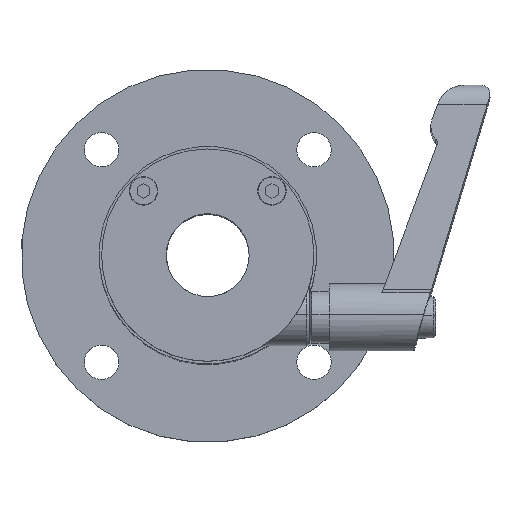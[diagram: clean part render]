
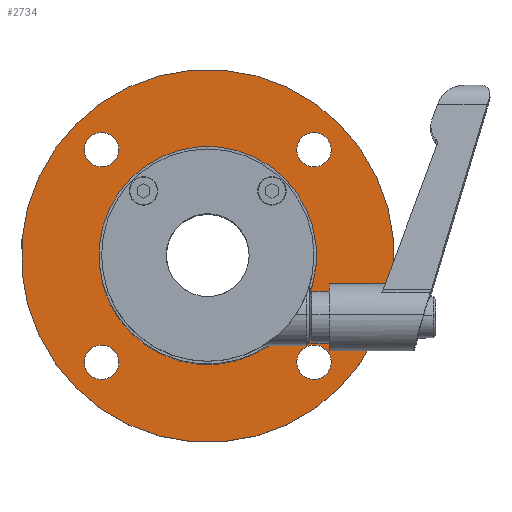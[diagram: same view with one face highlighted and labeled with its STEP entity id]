
A CAD part, top view. The second image highlights one B-rep face of the part: STEP entity #2734.
In plain terms, the highlighted planar face has unit normal (0, 0, 1).
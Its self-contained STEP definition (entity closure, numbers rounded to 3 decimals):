
#3 = DIRECTION ( 'NONE',  ( -0.707, -0.707, 0. ) ) ;
#15 = AXIS2_PLACEMENT_3D ( 'NONE', #58, #6209, #4895 ) ;
#58 = CARTESIAN_POINT ( 'NONE',  ( -30.833, -21.529, 66.823 ) ) ;
#147 = DIRECTION ( 'NONE',  ( -0.707, 0.707, 0. ) ) ;
#468 = VERTEX_POINT ( 'NONE', #6728 ) ;
#502 = ORIENTED_EDGE ( 'NONE', *, *, #7248, .T. ) ;
#602 = CIRCLE ( 'NONE', #2514, 3.324 ) ;
#647 = DIRECTION ( 'NONE',  ( 0.707, -0.707, 0. ) ) ;
#775 = AXIS2_PLACEMENT_3D ( 'NONE', #5859, #2406, #3907 ) ;
#873 = VERTEX_POINT ( 'NONE', #5717 ) ;
#933 = EDGE_LOOP ( 'NONE', ( #8218, #6963 ) ) ;
#1094 = CARTESIAN_POINT ( 'NONE',  ( -35.782, -26.479, 66.823 ) ) ;
#1461 = DIRECTION ( 'NONE',  ( -0.707, -0.707, 0. ) ) ;
#1577 = EDGE_LOOP ( 'NONE', ( #5578, #8976 ) ) ;
#1595 = CARTESIAN_POINT ( 'NONE',  ( -33.183, 17.133, 66.823 ) ) ;
#1656 = DIRECTION ( 'NONE',  ( 0., 0., -1. ) ) ;
#1727 = DIRECTION ( 'NONE',  ( -0.707, -0.707, 0. ) ) ;
#1791 = CIRCLE ( 'NONE', #15, 3.324 ) ;
#1823 = VERTEX_POINT ( 'NONE', #2575 ) ;
#2003 = CARTESIAN_POINT ( 'NONE',  ( 7.83, 21.833, 66.823 ) ) ;
#2118 = VERTEX_POINT ( 'NONE', #8367 ) ;
#2150 = CIRCLE ( 'NONE', #3885, 36. ) ;
#2223 = FACE_BOUND ( 'NONE', #1577, .T. ) ;
#2228 = CARTESIAN_POINT ( 'NONE',  ( 15.129, 24.433, 66.823 ) ) ;
#2317 = CIRCLE ( 'NONE', #4930, 3.324 ) ;
#2318 = DIRECTION ( 'NONE',  ( 0., 0., -1. ) ) ;
#2368 = DIRECTION ( 'NONE',  ( 0., 0., -1. ) ) ;
#2406 = DIRECTION ( 'NONE',  ( 0., 0., -1. ) ) ;
#2474 = CIRCLE ( 'NONE', #4501, 21. ) ;
#2514 = AXIS2_PLACEMENT_3D ( 'NONE', #4853, #1656, #7691 ) ;
#2564 = VERTEX_POINT ( 'NONE', #5952 ) ;
#2575 = CARTESIAN_POINT ( 'NONE',  ( -33.183, -19.179, 66.823 ) ) ;
#2715 = CARTESIAN_POINT ( 'NONE',  ( -10.326, -1.023, 66.823 ) ) ;
#2734 = ADVANCED_FACE ( 'NONE', ( #7104, #5753, #6257, #2223, #4990, #2878 ), #7747, .T. ) ;
#2742 = DIRECTION ( 'NONE',  ( 0.707, 0.707, 0. ) ) ;
#2878 = FACE_BOUND ( 'NONE', #4591, .T. ) ;
#2880 = CARTESIAN_POINT ( 'NONE',  ( -10.326, -1.023, 66.823 ) ) ;
#2914 = CIRCLE ( 'NONE', #4349, 36. ) ;
#2966 = DIRECTION ( 'NONE',  ( 0., 0., 1. ) ) ;
#3137 = EDGE_CURVE ( 'NONE', #3878, #8234, #2914, .T. ) ;
#3289 = DIRECTION ( 'NONE',  ( 0., 0., -1. ) ) ;
#3730 = VERTEX_POINT ( 'NONE', #7232 ) ;
#3878 = VERTEX_POINT ( 'NONE', #1094 ) ;
#3885 = AXIS2_PLACEMENT_3D ( 'NONE', #5490, #3289, #6653 ) ;
#3890 = AXIS2_PLACEMENT_3D ( 'NONE', #7850, #2318, #647 ) ;
#3907 = DIRECTION ( 'NONE',  ( 0.707, 0.707, 0. ) ) ;
#3962 = EDGE_LOOP ( 'NONE', ( #4020, #5162 ) ) ;
#3988 = CIRCLE ( 'NONE', #775, 3.324 ) ;
#4020 = ORIENTED_EDGE ( 'NONE', *, *, #3137, .F. ) ;
#4069 = EDGE_CURVE ( 'NONE', #2564, #7740, #6244, .T. ) ;
#4349 = AXIS2_PLACEMENT_3D ( 'NONE', #5763, #7058, #1727 ) ;
#4501 = AXIS2_PLACEMENT_3D ( 'NONE', #2715, #5480, #6736 ) ;
#4591 = EDGE_LOOP ( 'NONE', ( #502, #4790 ) ) ;
#4731 = VERTEX_POINT ( 'NONE', #1595 ) ;
#4767 = VERTEX_POINT ( 'NONE', #2003 ) ;
#4790 = ORIENTED_EDGE ( 'NONE', *, *, #8703, .T. ) ;
#4853 = CARTESIAN_POINT ( 'NONE',  ( -30.833, -21.529, 66.823 ) ) ;
#4881 = DIRECTION ( 'NONE',  ( 0., 0., -1. ) ) ;
#4895 = DIRECTION ( 'NONE',  ( -0.707, 0.707, 0. ) ) ;
#4930 = AXIS2_PLACEMENT_3D ( 'NONE', #7689, #4881, #3 ) ;
#4940 = AXIS2_PLACEMENT_3D ( 'NONE', #7273, #5872, #5823 ) ;
#4979 = CIRCLE ( 'NONE', #5701, 3.324 ) ;
#4982 = EDGE_CURVE ( 'NONE', #1823, #8607, #1791, .T. ) ;
#4990 = FACE_BOUND ( 'NONE', #933, .T. ) ;
#5162 = ORIENTED_EDGE ( 'NONE', *, *, #7477, .F. ) ;
#5187 = AXIS2_PLACEMENT_3D ( 'NONE', #2880, #7664, #1461 ) ;
#5312 = ORIENTED_EDGE ( 'NONE', *, *, #7063, .T. ) ;
#5413 = ORIENTED_EDGE ( 'NONE', *, *, #6340, .T. ) ;
#5465 = DIRECTION ( 'NONE',  ( 0., 0., -1. ) ) ;
#5480 = DIRECTION ( 'NONE',  ( 0., 0., -1. ) ) ;
#5490 = CARTESIAN_POINT ( 'NONE',  ( -10.326, -1.023, 66.823 ) ) ;
#5509 = CIRCLE ( 'NONE', #7507, 3.324 ) ;
#5531 = AXIS2_PLACEMENT_3D ( 'NONE', #6379, #2966, #147 ) ;
#5578 = ORIENTED_EDGE ( 'NONE', *, *, #4069, .T. ) ;
#5701 = AXIS2_PLACEMENT_3D ( 'NONE', #6853, #5465, #2742 ) ;
#5717 = CARTESIAN_POINT ( 'NONE',  ( 12.53, 17.133, 66.823 ) ) ;
#5753 = FACE_BOUND ( 'NONE', #6112, .T. ) ;
#5763 = CARTESIAN_POINT ( 'NONE',  ( -10.326, -1.023, 66.823 ) ) ;
#5823 = DIRECTION ( 'NONE',  ( -0.707, -0.707, 0. ) ) ;
#5859 = CARTESIAN_POINT ( 'NONE',  ( -30.833, 19.483, 66.823 ) ) ;
#5872 = DIRECTION ( 'NONE',  ( 0., 0., -1. ) ) ;
#5886 = CARTESIAN_POINT ( 'NONE',  ( -28.483, -23.879, 66.823 ) ) ;
#5952 = CARTESIAN_POINT ( 'NONE',  ( 7.83, -23.879, 66.823 ) ) ;
#5956 = CARTESIAN_POINT ( 'NONE',  ( 10.18, 19.483, 66.823 ) ) ;
#6112 = EDGE_LOOP ( 'NONE', ( #8820, #5413 ) ) ;
#6149 = EDGE_CURVE ( 'NONE', #8607, #1823, #602, .T. ) ;
#6209 = DIRECTION ( 'NONE',  ( 0., 0., -1. ) ) ;
#6241 = EDGE_CURVE ( 'NONE', #3730, #4731, #4979, .T. ) ;
#6244 = CIRCLE ( 'NONE', #4940, 3.324 ) ;
#6257 = FACE_BOUND ( 'NONE', #6384, .T. ) ;
#6340 = EDGE_CURVE ( 'NONE', #4731, #3730, #3988, .T. ) ;
#6379 = CARTESIAN_POINT ( 'NONE',  ( -30.479, -21.175, 66.823 ) ) ;
#6384 = EDGE_LOOP ( 'NONE', ( #7022, #5312 ) ) ;
#6653 = DIRECTION ( 'NONE',  ( -0.707, -0.707, 0. ) ) ;
#6728 = CARTESIAN_POINT ( 'NONE',  ( -25.176, -15.872, 66.823 ) ) ;
#6736 = DIRECTION ( 'NONE',  ( -0.707, -0.707, 0. ) ) ;
#6853 = CARTESIAN_POINT ( 'NONE',  ( -30.833, 19.483, 66.823 ) ) ;
#6963 = ORIENTED_EDGE ( 'NONE', *, *, #6149, .T. ) ;
#7022 = ORIENTED_EDGE ( 'NONE', *, *, #8024, .T. ) ;
#7058 = DIRECTION ( 'NONE',  ( 0., 0., -1. ) ) ;
#7063 = EDGE_CURVE ( 'NONE', #4767, #873, #5509, .T. ) ;
#7104 = FACE_OUTER_BOUND ( 'NONE', #3962, .T. ) ;
#7232 = CARTESIAN_POINT ( 'NONE',  ( -28.483, 21.833, 66.823 ) ) ;
#7248 = EDGE_CURVE ( 'NONE', #468, #2118, #8669, .T. ) ;
#7273 = CARTESIAN_POINT ( 'NONE',  ( 10.18, -21.529, 66.823 ) ) ;
#7477 = EDGE_CURVE ( 'NONE', #8234, #3878, #2150, .T. ) ;
#7507 = AXIS2_PLACEMENT_3D ( 'NONE', #5956, #2368, #7894 ) ;
#7664 = DIRECTION ( 'NONE',  ( 0., 0., -1. ) ) ;
#7689 = CARTESIAN_POINT ( 'NONE',  ( 10.18, -21.529, 66.823 ) ) ;
#7691 = DIRECTION ( 'NONE',  ( -0.707, 0.707, 0. ) ) ;
#7740 = VERTEX_POINT ( 'NONE', #8653 ) ;
#7747 = PLANE ( 'NONE',  #5531 ) ;
#7788 = CIRCLE ( 'NONE', #3890, 3.324 ) ;
#7850 = CARTESIAN_POINT ( 'NONE',  ( 10.18, 19.483, 66.823 ) ) ;
#7894 = DIRECTION ( 'NONE',  ( 0.707, -0.707, 0. ) ) ;
#8024 = EDGE_CURVE ( 'NONE', #873, #4767, #7788, .T. ) ;
#8218 = ORIENTED_EDGE ( 'NONE', *, *, #4982, .T. ) ;
#8234 = VERTEX_POINT ( 'NONE', #2228 ) ;
#8367 = CARTESIAN_POINT ( 'NONE',  ( 4.523, 13.826, 66.823 ) ) ;
#8607 = VERTEX_POINT ( 'NONE', #5886 ) ;
#8653 = CARTESIAN_POINT ( 'NONE',  ( 12.53, -19.179, 66.823 ) ) ;
#8669 = CIRCLE ( 'NONE', #5187, 21. ) ;
#8703 = EDGE_CURVE ( 'NONE', #2118, #468, #2474, .T. ) ;
#8777 = EDGE_CURVE ( 'NONE', #7740, #2564, #2317, .T. ) ;
#8820 = ORIENTED_EDGE ( 'NONE', *, *, #6241, .T. ) ;
#8976 = ORIENTED_EDGE ( 'NONE', *, *, #8777, .T. ) ;
